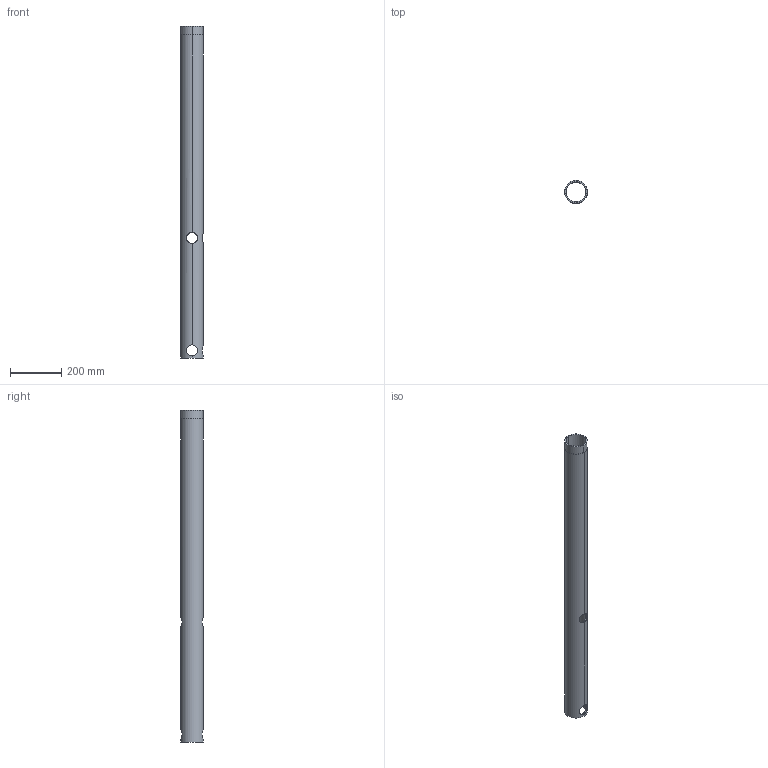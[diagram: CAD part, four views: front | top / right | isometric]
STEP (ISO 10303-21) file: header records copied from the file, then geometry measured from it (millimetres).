
FILE_DESCRIPTION(/* description */ ('(C) Elphel, Inc. 2011. Licensed under CERN OHL v.1.1 or later, see http://ohwr.org/cernohl'),/* implementation_level */ '2;1');
FILE_NAME(/* name */ '0353-22-121',/* time_stamp */ '2011-11-11T14:02:27-07:00',/* author */ (''),/* organization */ ('Elphel, Inc'),/* preprocessor_version */ 'ST-DEVELOPER v12',/* originating_system */ 'VariCAD 2010-3.03; kernel version (20100102)',/* authorisation */ '');
FILE_SCHEMA (('AUTOMOTIVE_DESIGN'));
Length unit declared in the file: millimetre
Products named in the file (1): Part
Bounding box: 88.9 x 88.9 x 1300 mm (x, y, z)
Volume: 1812890.8 mm3; surface area: 671118.4 mm2
Topology: 1 solids, 1 shells, 21 faces, 78 edges, 52 vertices
Faces by surface type: cylinder 18, plane 3
Entity records: 1661 total; most frequent: CARTESIAN_POINT 909, ORIENTED_EDGE 156, DIRECTION 96, EDGE_CURVE 78, VERTEX_POINT 52, B_SPLINE_CURVE_WITH_KNOTS 40, AXIS2_PLACEMENT_3D 35, EDGE_LOOP 28
